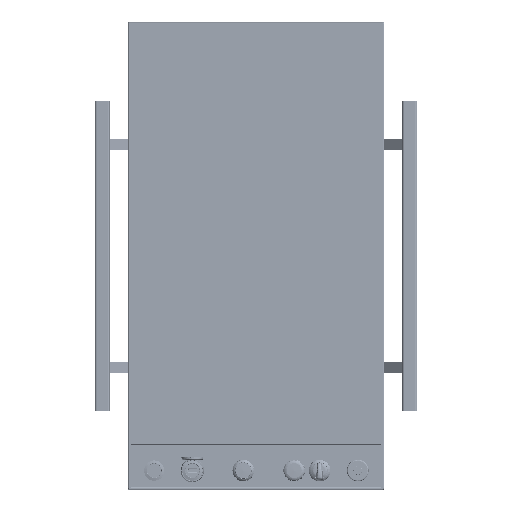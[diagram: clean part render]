
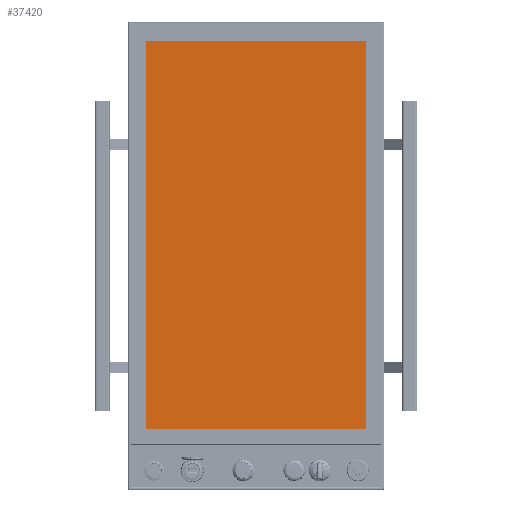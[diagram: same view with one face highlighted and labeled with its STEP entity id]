
A CAD part, top view. The second image highlights one B-rep face of the part: STEP entity #37420.
In plain terms, the highlighted planar face has unit normal (0, 0, 1) as drawn and (0, 1, 0) by its records, which use the part's own axes.
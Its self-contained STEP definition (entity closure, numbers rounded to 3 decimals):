
#21769 = CARTESIAN_POINT ( 'NONE',  ( 266.88, 2.7, -150.645 ) ) ;
#34737 = VERTEX_POINT ( 'NONE', #21769 ) ;
#37014 = DIRECTION ( 'NONE',  ( 0., 0., 1. ) ) ;
#37420 = ADVANCED_FACE ( 'NONE', ( #285318 ), #289988, .T. ) ;
#40109 = VERTEX_POINT ( 'NONE', #282612 ) ;
#41856 = LINE ( 'NONE', #371957, #336566 ) ;
#45194 = LINE ( 'NONE', #78015, #111906 ) ;
#69831 = CARTESIAN_POINT ( 'NONE',  ( 0., 2.7, 0. ) ) ;
#78015 = CARTESIAN_POINT ( 'NONE',  ( 266.88, 2.7, 150.645 ) ) ;
#94066 = ORIENTED_EDGE ( 'NONE', *, *, #191491, .T. ) ;
#111906 = VECTOR ( 'NONE', #330961, 1000. ) ;
#150126 = DIRECTION ( 'NONE',  ( 1., 0., 0. ) ) ;
#157005 = LINE ( 'NONE', #363302, #173899 ) ;
#164449 = ORIENTED_EDGE ( 'NONE', *, *, #383167, .T. ) ;
#173899 = VECTOR ( 'NONE', #150126, 1000. ) ;
#188455 = VERTEX_POINT ( 'NONE', #250065 ) ;
#191491 = EDGE_CURVE ( 'NONE', #367906, #40109, #259415, .T. ) ;
#236284 = ORIENTED_EDGE ( 'NONE', *, *, #364382, .T. ) ;
#250065 = CARTESIAN_POINT ( 'NONE',  ( 266.88, 2.7, 150.645 ) ) ;
#259415 = LINE ( 'NONE', #439920, #264823 ) ;
#264823 = VECTOR ( 'NONE', #404781, 1000. ) ;
#282612 = CARTESIAN_POINT ( 'NONE',  ( -266.88, 2.7, 150.645 ) ) ;
#285318 = FACE_OUTER_BOUND ( 'NONE', #421647, .T. ) ;
#287542 = CARTESIAN_POINT ( 'NONE',  ( -266.88, 2.7, -150.645 ) ) ;
#289988 = PLANE ( 'NONE',  #302928 ) ;
#302928 = AXIS2_PLACEMENT_3D ( 'NONE', #69831, #357974, #37014 ) ;
#330961 = DIRECTION ( 'NONE',  ( 0., 0., -1. ) ) ;
#336566 = VECTOR ( 'NONE', #400240, 1000. ) ;
#337311 = ORIENTED_EDGE ( 'NONE', *, *, #411977, .T. ) ;
#357974 = DIRECTION ( 'NONE',  ( 0., 1., 0. ) ) ;
#363302 = CARTESIAN_POINT ( 'NONE',  ( -266.88, 2.7, 150.645 ) ) ;
#364382 = EDGE_CURVE ( 'NONE', #188455, #34737, #45194, .T. ) ;
#367906 = VERTEX_POINT ( 'NONE', #287542 ) ;
#371957 = CARTESIAN_POINT ( 'NONE',  ( 266.88, 2.7, -150.645 ) ) ;
#383167 = EDGE_CURVE ( 'NONE', #40109, #188455, #157005, .T. ) ;
#400240 = DIRECTION ( 'NONE',  ( -1., 0., 0. ) ) ;
#404781 = DIRECTION ( 'NONE',  ( 0., 0., 1. ) ) ;
#411977 = EDGE_CURVE ( 'NONE', #34737, #367906, #41856, .T. ) ;
#421647 = EDGE_LOOP ( 'NONE', ( #337311, #94066, #164449, #236284 ) ) ;
#439920 = CARTESIAN_POINT ( 'NONE',  ( -266.88, 2.7, -150.645 ) ) ;
